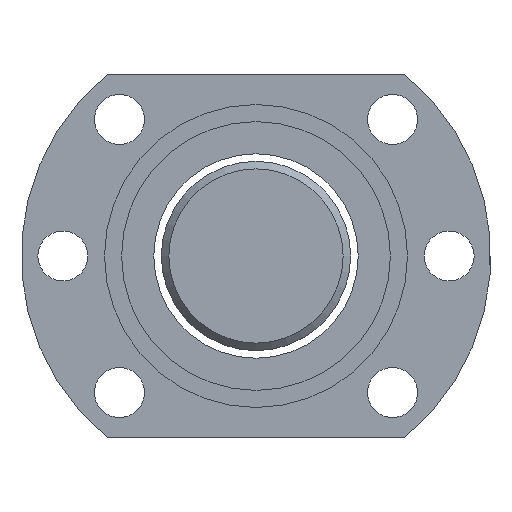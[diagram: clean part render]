
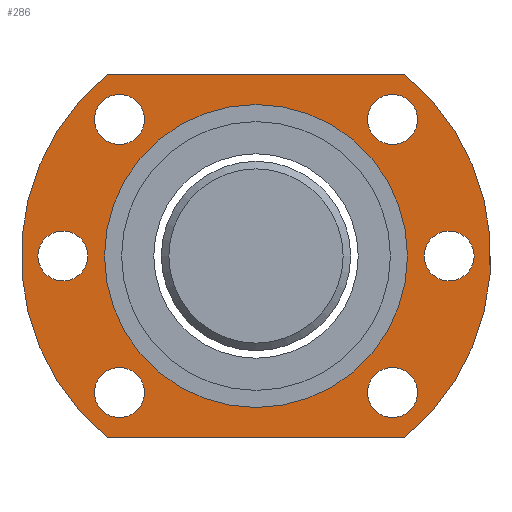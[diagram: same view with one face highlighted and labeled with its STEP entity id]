
A CAD part, left-side view. The second image highlights one B-rep face of the part: STEP entity #286.
In plain terms, the highlighted planar face has unit normal (-1, 0, 0).
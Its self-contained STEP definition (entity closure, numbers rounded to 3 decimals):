
#97=LINE('',#1193,#105);
#98=LINE('',#1197,#106);
#105=VECTOR('',#1012,1.);
#106=VECTOR('',#1015,1.);
#227=FACE_BOUND('',#407,.T.);
#228=FACE_BOUND('',#408,.T.);
#229=FACE_BOUND('',#409,.T.);
#230=FACE_BOUND('',#410,.T.);
#231=FACE_BOUND('',#411,.T.);
#232=FACE_BOUND('',#412,.T.);
#233=FACE_BOUND('',#413,.T.);
#234=FACE_BOUND('',#414,.T.);
#286=ADVANCED_FACE('',(#227,#228,#229,#230,#231,#232,#233,#234),#316,.T.);
#316=PLANE('',#823);
#407=EDGE_LOOP('',(#516));
#408=EDGE_LOOP('',(#517));
#409=EDGE_LOOP('',(#518,#519,#520,#521));
#410=EDGE_LOOP('',(#522));
#411=EDGE_LOOP('',(#523));
#412=EDGE_LOOP('',(#524));
#413=EDGE_LOOP('',(#525));
#414=EDGE_LOOP('',(#526));
#516=ORIENTED_EDGE('',*,*,#661,.T.);
#517=ORIENTED_EDGE('',*,*,#650,.F.);
#518=ORIENTED_EDGE('',*,*,#662,.T.);
#519=ORIENTED_EDGE('',*,*,#663,.T.);
#520=ORIENTED_EDGE('',*,*,#664,.T.);
#521=ORIENTED_EDGE('',*,*,#665,.T.);
#522=ORIENTED_EDGE('',*,*,#666,.F.);
#523=ORIENTED_EDGE('',*,*,#667,.F.);
#524=ORIENTED_EDGE('',*,*,#668,.F.);
#525=ORIENTED_EDGE('',*,*,#669,.T.);
#526=ORIENTED_EDGE('',*,*,#670,.T.);
#592=VERTEX_POINT('',#1165);
#603=VERTEX_POINT('',#1189);
#604=VERTEX_POINT('',#1191);
#605=VERTEX_POINT('',#1192);
#606=VERTEX_POINT('',#1194);
#607=VERTEX_POINT('',#1196);
#608=VERTEX_POINT('',#1199);
#609=VERTEX_POINT('',#1201);
#610=VERTEX_POINT('',#1203);
#611=VERTEX_POINT('',#1205);
#612=VERTEX_POINT('',#1207);
#650=EDGE_CURVE('',#592,#592,#712,.T.);
#661=EDGE_CURVE('',#603,#603,#721,.T.);
#662=EDGE_CURVE('',#604,#605,#722,.T.);
#663=EDGE_CURVE('',#605,#606,#97,.T.);
#664=EDGE_CURVE('',#606,#607,#723,.T.);
#665=EDGE_CURVE('',#607,#604,#98,.T.);
#666=EDGE_CURVE('',#608,#608,#724,.T.);
#667=EDGE_CURVE('',#609,#609,#725,.T.);
#668=EDGE_CURVE('',#610,#610,#726,.T.);
#669=EDGE_CURVE('',#611,#611,#727,.T.);
#670=EDGE_CURVE('',#612,#612,#728,.T.);
#712=CIRCLE('',#804,20.);
#721=CIRCLE('',#815,3.3);
#722=CIRCLE('',#816,31.);
#723=CIRCLE('',#817,31.);
#724=CIRCLE('',#818,3.3);
#725=CIRCLE('',#819,3.3);
#726=CIRCLE('',#820,3.3);
#727=CIRCLE('',#821,3.3);
#728=CIRCLE('',#822,3.3);
#804=AXIS2_PLACEMENT_3D('',#1164,#984,#985);
#815=AXIS2_PLACEMENT_3D('',#1188,#1008,#1009);
#816=AXIS2_PLACEMENT_3D('',#1190,#1010,#1011);
#817=AXIS2_PLACEMENT_3D('',#1195,#1013,#1014);
#818=AXIS2_PLACEMENT_3D('',#1198,#1016,#1017);
#819=AXIS2_PLACEMENT_3D('',#1200,#1018,#1019);
#820=AXIS2_PLACEMENT_3D('',#1202,#1020,#1021);
#821=AXIS2_PLACEMENT_3D('',#1204,#1022,#1023);
#822=AXIS2_PLACEMENT_3D('',#1206,#1024,#1025);
#823=AXIS2_PLACEMENT_3D('',#1208,#1026,#1027);
#984=DIRECTION('',(-1.,0.,0.));
#985=DIRECTION('',(0.,0.,-1.));
#1008=DIRECTION('',(1.,0.,0.));
#1009=DIRECTION('',(0.,0.,1.));
#1010=DIRECTION('',(-1.,0.,0.));
#1011=DIRECTION('',(0.,0.,-1.));
#1012=DIRECTION('',(0.,-1.,0.));
#1013=DIRECTION('',(-1.,0.,0.));
#1014=DIRECTION('',(0.,0.,-1.));
#1015=DIRECTION('',(0.,1.,0.));
#1016=DIRECTION('',(-1.,0.,0.));
#1017=DIRECTION('',(0.,0.,1.));
#1018=DIRECTION('',(-1.,0.,0.));
#1019=DIRECTION('',(0.,0.,1.));
#1020=DIRECTION('',(-1.,0.,0.));
#1021=DIRECTION('',(0.,0.,1.));
#1022=DIRECTION('',(1.,0.,0.));
#1023=DIRECTION('',(0.,0.,1.));
#1024=DIRECTION('',(1.,0.,0.));
#1025=DIRECTION('',(0.,0.,1.));
#1026=DIRECTION('',(-1.,0.,0.));
#1027=DIRECTION('',(0.,0.,1.));
#1164=CARTESIAN_POINT('',(-103.351,-29.154,-47.318));
#1165=CARTESIAN_POINT('',(-103.351,-29.154,-67.318));
#1188=CARTESIAN_POINT('',(-103.351,-54.654,-47.318));
#1189=CARTESIAN_POINT('',(-103.351,-54.654,-44.018));
#1190=CARTESIAN_POINT('',(-103.351,-29.154,-47.318));
#1191=CARTESIAN_POINT('',(-103.351,-9.533,-23.318));
#1192=CARTESIAN_POINT('',(-103.351,-9.533,-71.318));
#1193=CARTESIAN_POINT('',(-103.351,-9.533,-71.318));
#1194=CARTESIAN_POINT('',(-103.351,-48.776,-71.318));
#1195=CARTESIAN_POINT('',(-103.351,-29.154,-47.318));
#1196=CARTESIAN_POINT('',(-103.351,-48.776,-23.318));
#1197=CARTESIAN_POINT('',(-103.351,-48.776,-23.318));
#1198=CARTESIAN_POINT('',(-103.351,-3.654,-47.318));
#1199=CARTESIAN_POINT('',(-103.351,-3.654,-44.018));
#1200=CARTESIAN_POINT('',(-103.351,-11.123,-29.287));
#1201=CARTESIAN_POINT('',(-103.351,-11.123,-25.987));
#1202=CARTESIAN_POINT('',(-103.351,-11.123,-65.349));
#1203=CARTESIAN_POINT('',(-103.351,-11.123,-62.049));
#1204=CARTESIAN_POINT('',(-103.351,-47.186,-65.349));
#1205=CARTESIAN_POINT('',(-103.351,-47.186,-62.049));
#1206=CARTESIAN_POINT('',(-103.351,-47.186,-29.287));
#1207=CARTESIAN_POINT('',(-103.351,-47.186,-25.987));
#1208=CARTESIAN_POINT('',(-103.351,-29.154,-47.318));
